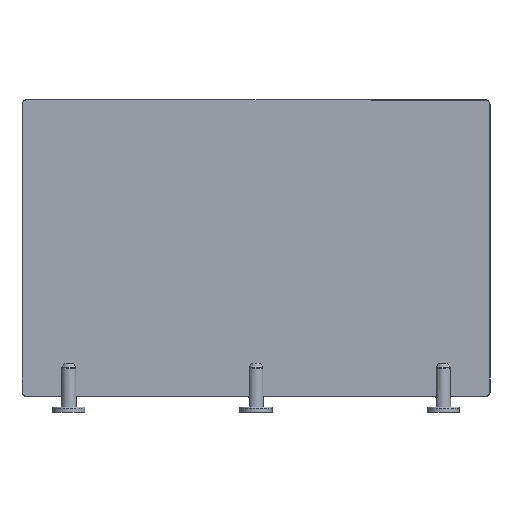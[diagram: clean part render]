
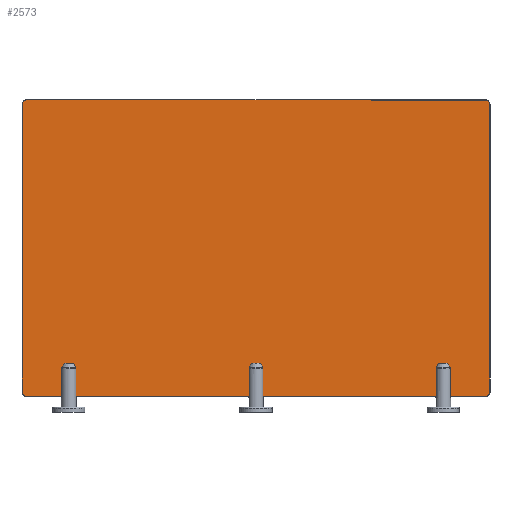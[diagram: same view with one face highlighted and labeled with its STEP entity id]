
A CAD part, front view. The second image highlights one B-rep face of the part: STEP entity #2573.
In plain terms, the highlighted planar face has unit normal (0, -1, 0) as drawn and (0, 0, 1) by its records, which use the part's own axes.
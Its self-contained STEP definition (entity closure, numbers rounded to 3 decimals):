
#207=LINE('',#4225,#347);
#208=LINE('',#4229,#348);
#209=LINE('',#4233,#349);
#210=LINE('',#4237,#350);
#347=VECTOR('',#3407,1000.);
#348=VECTOR('',#3410,1000.);
#349=VECTOR('',#3413,1000.);
#350=VECTOR('',#3416,1000.);
#945=ORIENTED_EDGE('',*,*,#1282,.T.);
#946=ORIENTED_EDGE('',*,*,#1283,.T.);
#947=ORIENTED_EDGE('',*,*,#1284,.T.);
#948=ORIENTED_EDGE('',*,*,#1285,.T.);
#949=ORIENTED_EDGE('',*,*,#1286,.T.);
#950=ORIENTED_EDGE('',*,*,#1287,.T.);
#951=ORIENTED_EDGE('',*,*,#1288,.T.);
#952=ORIENTED_EDGE('',*,*,#1289,.T.);
#1282=EDGE_CURVE('',#1505,#1506,#1604,.F.);
#1283=EDGE_CURVE('',#1506,#1507,#207,.T.);
#1284=EDGE_CURVE('',#1507,#1508,#1605,.F.);
#1285=EDGE_CURVE('',#1508,#1509,#208,.T.);
#1286=EDGE_CURVE('',#1509,#1510,#1606,.F.);
#1287=EDGE_CURVE('',#1510,#1511,#209,.T.);
#1288=EDGE_CURVE('',#1511,#1512,#1607,.F.);
#1289=EDGE_CURVE('',#1512,#1505,#210,.T.);
#1505=VERTEX_POINT('',#4223);
#1506=VERTEX_POINT('',#4224);
#1507=VERTEX_POINT('',#4226);
#1508=VERTEX_POINT('',#4228);
#1509=VERTEX_POINT('',#4230);
#1510=VERTEX_POINT('',#4232);
#1511=VERTEX_POINT('',#4234);
#1512=VERTEX_POINT('',#4236);
#1604=CIRCLE('',#2837,14.);
#1605=CIRCLE('',#2838,14.);
#1606=CIRCLE('',#2839,14.);
#1607=CIRCLE('',#2840,14.);
#1784=EDGE_LOOP('',(#945,#946,#947,#948,#949,#950,#951,#952));
#1972=FACE_BOUND('',#1784,.T.);
#2047=PLANE('',#2836);
#2573=ADVANCED_FACE('',(#1972),#2047,.F.);
#2836=AXIS2_PLACEMENT_3D('',#4221,#3403,#3404);
#2837=AXIS2_PLACEMENT_3D('',#4222,#3405,#3406);
#2838=AXIS2_PLACEMENT_3D('',#4227,#3408,#3409);
#2839=AXIS2_PLACEMENT_3D('',#4231,#3411,#3412);
#2840=AXIS2_PLACEMENT_3D('',#4235,#3414,#3415);
#3403=DIRECTION('',(0.,0.,-1.));
#3404=DIRECTION('',(-1.,0.,0.));
#3405=DIRECTION('',(0.,0.,-1.));
#3406=DIRECTION('',(-1.,0.,0.));
#3407=DIRECTION('',(0.,1.,0.));
#3408=DIRECTION('',(0.,0.,-1.));
#3409=DIRECTION('',(-1.,0.,0.));
#3410=DIRECTION('',(-1.,0.,0.));
#3411=DIRECTION('',(0.,0.,-1.));
#3412=DIRECTION('',(-1.,0.,0.));
#3413=DIRECTION('',(0.,-1.,0.));
#3414=DIRECTION('',(0.,0.,-1.));
#3415=DIRECTION('',(-1.,0.,0.));
#3416=DIRECTION('',(1.,0.,0.));
#4221=CARTESIAN_POINT('',(0.,0.,10.));
#4222=CARTESIAN_POINT('',(735.,-461.,10.));
#4223=CARTESIAN_POINT('',(735.,-475.,10.));
#4224=CARTESIAN_POINT('',(749.,-461.,10.));
#4225=CARTESIAN_POINT('',(749.,461.,10.));
#4226=CARTESIAN_POINT('',(749.,461.,10.));
#4227=CARTESIAN_POINT('',(735.,461.,10.));
#4228=CARTESIAN_POINT('',(735.,475.,10.));
#4229=CARTESIAN_POINT('',(-735.,475.,10.));
#4230=CARTESIAN_POINT('',(-735.,475.,10.));
#4231=CARTESIAN_POINT('',(-735.,461.,10.));
#4232=CARTESIAN_POINT('',(-749.,461.,10.));
#4233=CARTESIAN_POINT('',(-749.,-461.,10.));
#4234=CARTESIAN_POINT('',(-749.,-461.,10.));
#4235=CARTESIAN_POINT('',(-735.,-461.,10.));
#4236=CARTESIAN_POINT('',(-735.,-475.,10.));
#4237=CARTESIAN_POINT('',(735.,-475.,10.));
